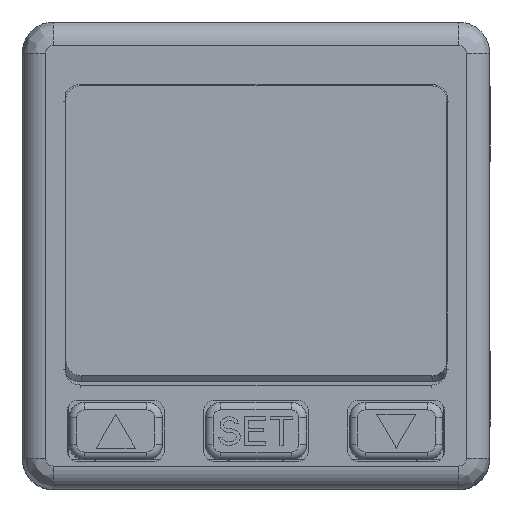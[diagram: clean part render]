
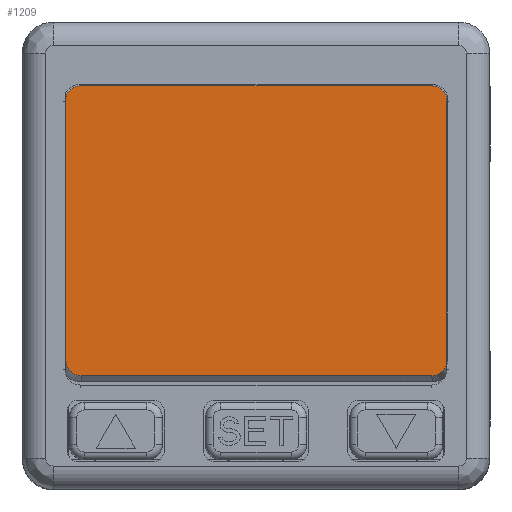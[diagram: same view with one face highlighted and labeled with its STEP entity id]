
A CAD part, top view. The second image highlights one B-rep face of the part: STEP entity #1209.
In plain terms, the highlighted planar face has unit normal (0, 0, 1).
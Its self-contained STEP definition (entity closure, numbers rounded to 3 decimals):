
#1209=ADVANCED_FACE('',(#3555),#3556,.T.);
#3555=FACE_OUTER_BOUND('',#7155,.T.);
#3556=PLANE('',#7156);
#7155=EDGE_LOOP('',(#16050,#16051,#16052,#16053,#16054,#16055,#16056,#16057));
#7156=AXIS2_PLACEMENT_3D('',#16058,#16059,#16060);
#16050=ORIENTED_EDGE('',*,*,#21777,.T.);
#16051=ORIENTED_EDGE('',*,*,#21461,.T.);
#16052=ORIENTED_EDGE('',*,*,#21778,.T.);
#16053=ORIENTED_EDGE('',*,*,#21463,.T.);
#16054=ORIENTED_EDGE('',*,*,#19615,.T.);
#16055=ORIENTED_EDGE('',*,*,#19247,.T.);
#16056=ORIENTED_EDGE('',*,*,#20663,.T.);
#16057=ORIENTED_EDGE('',*,*,#21779,.T.);
#16058=CARTESIAN_POINT('',(0.05,2.6,25.02));
#16059=DIRECTION('',(0.0,0.0,1.0));
#16060=DIRECTION('',(1.0,0.0,0.0));
#19247=EDGE_CURVE('',#22943,#22941,#22944,.T.);
#19615=EDGE_CURVE('',#23656,#22943,#23657,.T.);
#20663=EDGE_CURVE('',#22941,#25531,#25533,.T.);
#21461=EDGE_CURVE('',#26772,#26776,#26778,.T.);
#21463=EDGE_CURVE('',#26781,#23656,#26782,.T.);
#21777=EDGE_CURVE('',#27209,#26772,#27210,.T.);
#21778=EDGE_CURVE('',#26776,#26781,#27211,.T.);
#21779=EDGE_CURVE('',#25531,#27209,#27212,.T.);
#22941=VERTEX_POINT('',#29160);
#22943=VERTEX_POINT('',#29163);
#22944=B_SPLINE_CURVE_WITH_KNOTS('',3,(#29164,#29165,#29166,#29167,#29168,#29169,#29170),.UNSPECIFIED.,.F.,.F.,(4,1,1,1,4),(0.,0.,0.001,0.001,0.002),.UNSPECIFIED.);
#23656=VERTEX_POINT('',#30241);
#23657=LINE('',#30242,#30243);
#25531=VERTEX_POINT('',#33162);
#25533=LINE('',#33170,#33171);
#26772=VERTEX_POINT('',#35288);
#26776=VERTEX_POINT('',#35299);
#26778=B_SPLINE_CURVE_WITH_KNOTS('',3,(#35304,#35305,#35306,#35307,#35308,#35309),.UNSPECIFIED.,.F.,.F.,(4,1,1,4),(0.,0.,0.001,0.001),.UNSPECIFIED.);
#26781=VERTEX_POINT('',#35312);
#26782=B_SPLINE_CURVE_WITH_KNOTS('',3,(#35313,#35314,#35315,#35316,#35317,#35318,#35319),.UNSPECIFIED.,.F.,.F.,(4,1,1,1,4),(0.,0.,0.001,0.001,0.002),.UNSPECIFIED.);
#27209=VERTEX_POINT('',#36052);
#27210=LINE('',#36053,#36054);
#27211=LINE('',#36055,#36056);
#27212=B_SPLINE_CURVE_WITH_KNOTS('',3,(#36057,#36058,#36059,#36060,#36061,#36062,#36063),.UNSPECIFIED.,.F.,.F.,(4,1,1,1,4),(0.0,0.,0.,0.001,0.001),.UNSPECIFIED.);
#29160=CARTESIAN_POINT('',(12.293,-6.7,25.02));
#29163=CARTESIAN_POINT('',(11.293,-7.7,25.02));
#29164=CARTESIAN_POINT('',(11.293,-7.7,25.02));
#29165=CARTESIAN_POINT('',(11.424,-7.7,25.02));
#29166=CARTESIAN_POINT('',(11.686,-7.648,25.02));
#29167=CARTESIAN_POINT('',(12.019,-7.426,25.02));
#29168=CARTESIAN_POINT('',(12.241,-7.093,25.02));
#29169=CARTESIAN_POINT('',(12.293,-6.831,25.02));
#29170=CARTESIAN_POINT('',(12.293,-6.7,25.02));
#30241=CARTESIAN_POINT('',(-11.207,-7.7,25.02));
#30242=CARTESIAN_POINT('',(-11.207,-7.7,25.02));
#30243=VECTOR('',#37831,1.0);
#33162=CARTESIAN_POINT('',(12.293,10.285,25.02));
#33170=CARTESIAN_POINT('',(12.293,-6.7,25.02));
#33171=VECTOR('',#39083,1.0);
#35288=CARTESIAN_POINT('',(-11.25,11.012,25.02));
#35299=CARTESIAN_POINT('',(-12.207,10.466,25.02));
#35304=CARTESIAN_POINT('',(-11.25,11.012,25.02));
#35305=CARTESIAN_POINT('',(-11.396,11.012,25.02));
#35306=CARTESIAN_POINT('',(-11.687,10.954,25.02));
#35307=CARTESIAN_POINT('',(-12.012,10.737,25.02));
#35308=CARTESIAN_POINT('',(-12.159,10.546,25.02));
#35309=CARTESIAN_POINT('',(-12.207,10.466,25.02));
#35312=CARTESIAN_POINT('',(-12.207,-6.7,25.02));
#35313=CARTESIAN_POINT('',(-12.207,-6.7,25.02));
#35314=CARTESIAN_POINT('',(-12.207,-6.831,25.02));
#35315=CARTESIAN_POINT('',(-12.155,-7.093,25.02));
#35316=CARTESIAN_POINT('',(-11.932,-7.426,25.02));
#35317=CARTESIAN_POINT('',(-11.6,-7.648,25.02));
#35318=CARTESIAN_POINT('',(-11.338,-7.7,25.02));
#35319=CARTESIAN_POINT('',(-11.207,-7.7,25.02));
#36052=CARTESIAN_POINT('',(11.25,11.012,25.02));
#36053=CARTESIAN_POINT('',(11.25,11.012,25.02));
#36054=VECTOR('',#40399,1.0);
#36055=CARTESIAN_POINT('',(-12.207,10.466,25.02));
#36056=VECTOR('',#40400,1.0);
#36057=CARTESIAN_POINT('',(12.293,10.285,25.02));
#36058=CARTESIAN_POINT('',(12.288,10.299,25.02));
#36059=CARTESIAN_POINT('',(12.23,10.448,25.02));
#36060=CARTESIAN_POINT('',(12.057,10.707,25.02));
#36061=CARTESIAN_POINT('',(11.687,10.954,25.02));
#36062=CARTESIAN_POINT('',(11.396,11.012,25.02));
#36063=CARTESIAN_POINT('',(11.25,11.012,25.02));
#37831=DIRECTION('',(1.0,0.0,0.0));
#39083=DIRECTION('',(0.0,1.0,0.0));
#40399=DIRECTION('',(-1.0,0.0,0.0));
#40400=DIRECTION('',(0.0,-1.0,0.0));
